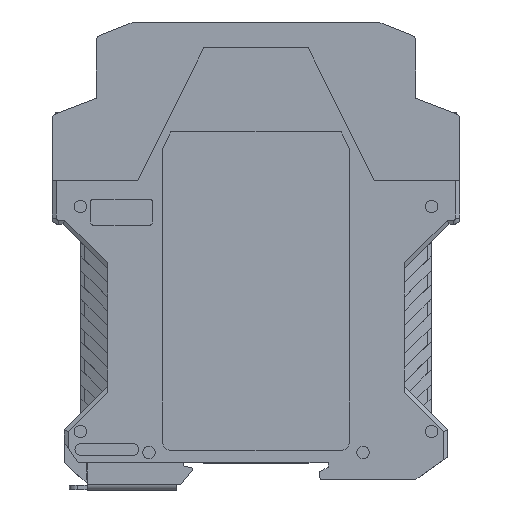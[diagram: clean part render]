
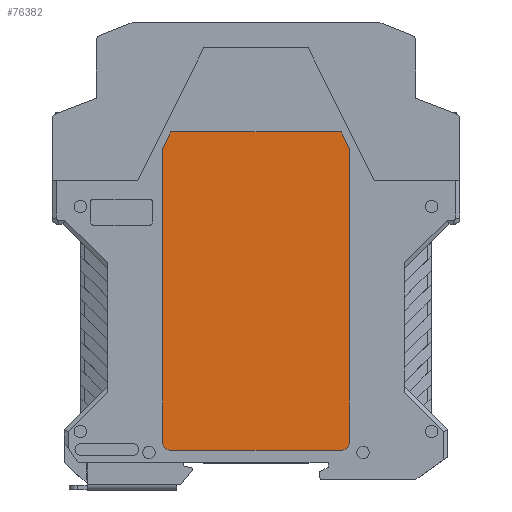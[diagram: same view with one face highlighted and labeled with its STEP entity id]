
A CAD part, top view. The second image highlights one B-rep face of the part: STEP entity #76382.
In plain terms, the highlighted planar face has unit normal (0, 0, 1).
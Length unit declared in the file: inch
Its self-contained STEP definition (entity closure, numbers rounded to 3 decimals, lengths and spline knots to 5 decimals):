
#199 = ORIENTED_EDGE ( 'NONE', *, *, #20705, .T. ) ;
#1715 = VECTOR ( 'NONE', #66712, 39.37008 ) ;
#2333 = CARTESIAN_POINT ( 'NONE',  ( -0.81299, 0.43307, 0.43701 ) ) ;
#2435 = DIRECTION ( 'NONE',  ( 1., 0., 0. ) ) ;
#4422 = LINE ( 'NONE', #81188, #73263 ) ;
#4552 = VERTEX_POINT ( 'NONE', #32772 ) ;
#4611 = VERTEX_POINT ( 'NONE', #31413 ) ;
#4847 = CARTESIAN_POINT ( 'NONE',  ( -0.81299, 3.47638, 0.43701 ) ) ;
#4902 = CARTESIAN_POINT ( 'NONE',  ( 0.89173, 0.51181, 0.43701 ) ) ;
#5211 = EDGE_CURVE ( 'NONE', #62132, #53085, #35743, .T. ) ;
#6345 = ORIENTED_EDGE ( 'NONE', *, *, #45125, .T. ) ;
#6370 = LINE ( 'NONE', #48267, #75195 ) ;
#10371 = DIRECTION ( 'NONE',  ( 0., 0., 1. ) ) ;
#11319 = VERTEX_POINT ( 'NONE', #4847 ) ;
#16272 = DIRECTION ( 'NONE',  ( 0., -1., 0. ) ) ;
#16302 = EDGE_CURVE ( 'NONE', #4611, #62132, #57884, .T. ) ;
#18604 = FACE_OUTER_BOUND ( 'NONE', #28588, .T. ) ;
#18837 = VERTEX_POINT ( 'NONE', #4902 ) ;
#20705 = EDGE_CURVE ( 'NONE', #11319, #24451, #6370, .T. ) ;
#20839 = ORIENTED_EDGE ( 'NONE', *, *, #33034, .T. ) ;
#21701 = LINE ( 'NONE', #56137, #57127 ) ;
#24451 = VERTEX_POINT ( 'NONE', #34013 ) ;
#24653 = CIRCLE ( 'NONE', #33832, 0.07874 ) ;
#28588 = EDGE_LOOP ( 'NONE', ( #20839, #58859, #6345, #199, #64689, #80486, #40908, #34362 ) ) ;
#28954 = AXIS2_PLACEMENT_3D ( 'NONE', #78687, #38885, #85365 ) ;
#29548 = CARTESIAN_POINT ( 'NONE',  ( -0.81299, 0.51181, 0.43701 ) ) ;
#30942 = CARTESIAN_POINT ( 'NONE',  ( 0.89173, 3.3189, 0.43701 ) ) ;
#31413 = CARTESIAN_POINT ( 'NONE',  ( -0.89173, 0.51181, 0.43701 ) ) ;
#32772 = CARTESIAN_POINT ( 'NONE',  ( 0.81299, 3.47638, 0.43701 ) ) ;
#33034 = EDGE_CURVE ( 'NONE', #18837, #40851, #54967, .T. ) ;
#33321 = VECTOR ( 'NONE', #43904, 39.37008 ) ;
#33670 = VECTOR ( 'NONE', #2435, 39.37008 ) ;
#33832 = AXIS2_PLACEMENT_3D ( 'NONE', #50376, #10371, #57043 ) ;
#34013 = CARTESIAN_POINT ( 'NONE',  ( -0.89173, 3.3189, 0.43701 ) ) ;
#34362 = ORIENTED_EDGE ( 'NONE', *, *, #74656, .T. ) ;
#35743 = LINE ( 'NONE', #2333, #33670 ) ;
#36229 = DIRECTION ( 'NONE',  ( 1., 0., 0. ) ) ;
#38885 = DIRECTION ( 'NONE',  ( 0., 0., 1. ) ) ;
#39559 = EDGE_CURVE ( 'NONE', #24451, #4611, #21701, .T. ) ;
#40851 = VERTEX_POINT ( 'NONE', #30942 ) ;
#40908 = ORIENTED_EDGE ( 'NONE', *, *, #5211, .T. ) ;
#41178 = CARTESIAN_POINT ( 'NONE',  ( 0.81299, 0.43307, 0.43701 ) ) ;
#41438 = DIRECTION ( 'NONE',  ( -0.447, 0.894, 0. ) ) ;
#43904 = DIRECTION ( 'NONE',  ( -1., 0., 0. ) ) ;
#45125 = EDGE_CURVE ( 'NONE', #4552, #11319, #68631, .T. ) ;
#48267 = CARTESIAN_POINT ( 'NONE',  ( -0.89173, 3.3189, 0.43701 ) ) ;
#48676 = CARTESIAN_POINT ( 'NONE',  ( -0.81299, 0.43307, 0.43701 ) ) ;
#50376 = CARTESIAN_POINT ( 'NONE',  ( 0.81299, 0.51181, 0.43701 ) ) ;
#52878 = AXIS2_PLACEMENT_3D ( 'NONE', #29548, #76023, #36229 ) ;
#53085 = VERTEX_POINT ( 'NONE', #41178 ) ;
#54967 = LINE ( 'NONE', #73418, #1715 ) ;
#56137 = CARTESIAN_POINT ( 'NONE',  ( -0.89173, 2.56658, 0.43701 ) ) ;
#57043 = DIRECTION ( 'NONE',  ( 1., 0., 0. ) ) ;
#57127 = VECTOR ( 'NONE', #16272, 39.37008 ) ;
#57884 = CIRCLE ( 'NONE', #52878, 0.07874 ) ;
#58859 = ORIENTED_EDGE ( 'NONE', *, *, #79971, .T. ) ;
#62132 = VERTEX_POINT ( 'NONE', #48676 ) ;
#64185 = CARTESIAN_POINT ( 'NONE',  ( -0.81299, 3.47638, 0.43701 ) ) ;
#64689 = ORIENTED_EDGE ( 'NONE', *, *, #39559, .T. ) ;
#66712 = DIRECTION ( 'NONE',  ( 0., 1., 0. ) ) ;
#68271 = DIRECTION ( 'NONE',  ( -0.447, -0.894, 0. ) ) ;
#68631 = LINE ( 'NONE', #64185, #33321 ) ;
#73263 = VECTOR ( 'NONE', #41438, 39.37008 ) ;
#73418 = CARTESIAN_POINT ( 'NONE',  ( 0.89173, 3.3189, 0.43701 ) ) ;
#74656 = EDGE_CURVE ( 'NONE', #53085, #18837, #24653, .T. ) ;
#75195 = VECTOR ( 'NONE', #68271, 39.37008 ) ;
#76023 = DIRECTION ( 'NONE',  ( 0., 0., 1. ) ) ;
#76382 = ADVANCED_FACE ( 'NONE', ( #18604 ), #85086, .T. ) ;
#78687 = CARTESIAN_POINT ( 'NONE',  ( 0.25455, 3.3053, 0.43701 ) ) ;
#79971 = EDGE_CURVE ( 'NONE', #40851, #4552, #4422, .T. ) ;
#80486 = ORIENTED_EDGE ( 'NONE', *, *, #16302, .T. ) ;
#81188 = CARTESIAN_POINT ( 'NONE',  ( 0.81299, 3.47638, 0.43701 ) ) ;
#85086 = PLANE ( 'NONE',  #28954 ) ;
#85365 = DIRECTION ( 'NONE',  ( 1., 0., 0. ) ) ;
